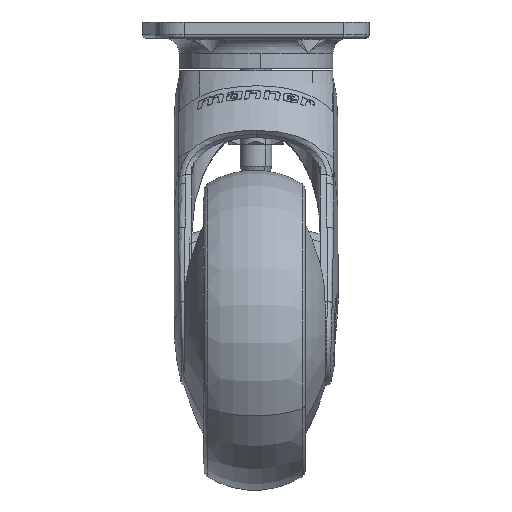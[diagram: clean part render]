
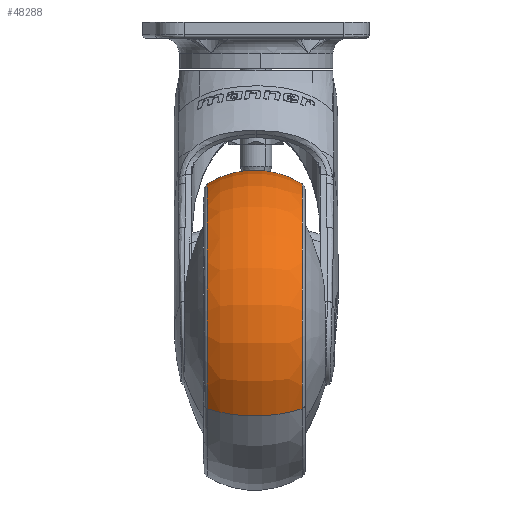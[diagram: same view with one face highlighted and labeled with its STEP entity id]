
A CAD part, left-side view. The second image highlights one B-rep face of the part: STEP entity #48288.
In plain terms, the highlighted toroidal (fillet/blend) face has major radius 22 mm and minor radius 28 mm.
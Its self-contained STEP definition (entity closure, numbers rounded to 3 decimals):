
#4450 = CARTESIAN_POINT ( 'NONE',  ( 17.605, 18.584, -15.293 ) ) ;
#4508 = CARTESIAN_POINT ( 'NONE',  ( 17.605, -11.031, -15.293 ) ) ;
#4509 = CARTESIAN_POINT ( 'NONE',  ( -59.707, 18.584, -64.287 ) ) ;
#4511 = CARTESIAN_POINT ( 'NONE',  ( -21.051, 3.777, -39.79 ) ) ;
#4527 = DIRECTION ( 'NONE',  ( 0., -1., 0. ) ) ;
#4540 = DIRECTION ( 'NONE',  ( 0.845, 0., 0.535 ) ) ;
#4541 = DIRECTION ( 'NONE',  ( 0., -1., 0. ) ) ;
#4542 = CARTESIAN_POINT ( 'NONE',  ( -21.051, -11.031, -39.79 ) ) ;
#4543 = AXIS2_PLACEMENT_3D ( 'NONE', #4542, #4541, #4540 ) ;
#4547 = DIRECTION ( 'NONE',  ( 0.845, 0., 0.535 ) ) ;
#4548 = DIRECTION ( 'NONE',  ( 0., -1., 0. ) ) ;
#4549 = AXIS2_PLACEMENT_3D ( 'NONE', #4559, #4548, #4547 ) ;
#4550 = CIRCLE ( 'NONE', #4543, 45.764 ) ;
#4552 = DIRECTION ( 'NONE',  ( 0.845, 0., 0.535 ) ) ;
#4553 = DIRECTION ( 'NONE',  ( -0.535, 0., 0.845 ) ) ;
#4554 = CARTESIAN_POINT ( 'NONE',  ( -39.634, 3.777, -51.566 ) ) ;
#4556 = AXIS2_PLACEMENT_3D ( 'NONE', #4554, #4553, #4552 ) ;
#4557 = DIRECTION ( 'NONE',  ( 0.845, 0., 0.535 ) ) ;
#4559 = CARTESIAN_POINT ( 'NONE',  ( -21.051, 18.584, -39.79 ) ) ;
#4560 = TOROIDAL_SURFACE ( 'NONE', #4561, 22., 28. ) ;
#4561 = AXIS2_PLACEMENT_3D ( 'NONE', #4511, #4527, #4557 ) ;
#4562 = CIRCLE ( 'NONE', #4549, 45.764 ) ;
#4566 = FACE_OUTER_BOUND ( 'NONE', #48246, .T. ) ;
#4568 = CIRCLE ( 'NONE', #4556, 28. ) ;
#4601 = CARTESIAN_POINT ( 'NONE',  ( -59.707, -11.031, -64.287 ) ) ;
#4636 = DIRECTION ( 'NONE',  ( -0.845, 0., -0.535 ) ) ;
#4637 = DIRECTION ( 'NONE',  ( 0.535, 0., -0.845 ) ) ;
#4638 = CARTESIAN_POINT ( 'NONE',  ( -2.468, 3.777, -28.014 ) ) ;
#4650 = AXIS2_PLACEMENT_3D ( 'NONE', #4638, #4637, #4636 ) ;
#4663 = CIRCLE ( 'NONE', #4650, 28. ) ;
#48245 = VERTEX_POINT ( 'NONE', #4450 ) ;
#48246 = EDGE_LOOP ( 'NONE', ( #48289, #48304, #48307, #48292 ) ) ;
#48247 = VERTEX_POINT ( 'NONE', #4509 ) ;
#48257 = VERTEX_POINT ( 'NONE', #4508 ) ;
#48288 = ADVANCED_FACE ( 'NONE', ( #4566 ), #4560, .T. ) ;
#48289 = ORIENTED_EDGE ( 'NONE', *, *, #48291, .T. ) ;
#48290 = EDGE_CURVE ( 'NONE', #48247, #48301, #4568, .T. ) ;
#48291 = EDGE_CURVE ( 'NONE', #48245, #48247, #4562, .T. ) ;
#48292 = ORIENTED_EDGE ( 'NONE', *, *, #48336, .F. ) ;
#48293 = EDGE_CURVE ( 'NONE', #48257, #48301, #4550, .T. ) ;
#48301 = VERTEX_POINT ( 'NONE', #4601 ) ;
#48304 = ORIENTED_EDGE ( 'NONE', *, *, #48290, .T. ) ;
#48307 = ORIENTED_EDGE ( 'NONE', *, *, #48293, .F. ) ;
#48336 = EDGE_CURVE ( 'NONE', #48245, #48257, #4663, .T. ) ;
